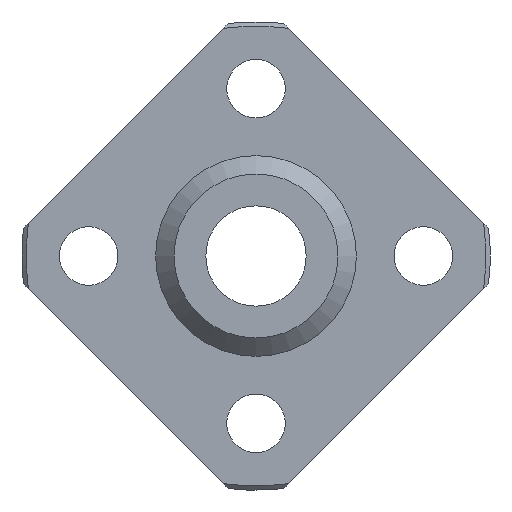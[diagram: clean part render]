
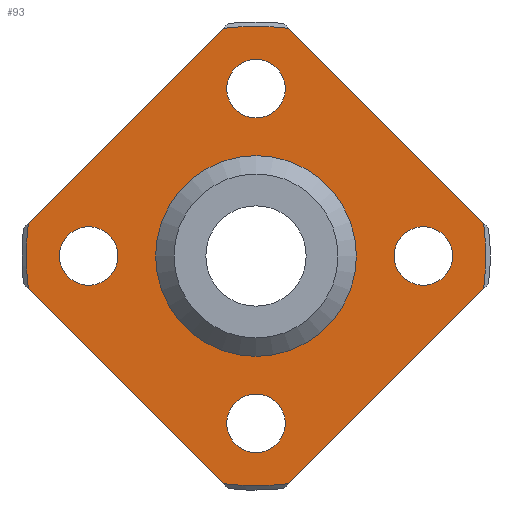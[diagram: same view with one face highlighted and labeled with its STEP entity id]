
A CAD part, left-side view. The second image highlights one B-rep face of the part: STEP entity #93.
In plain terms, the highlighted planar face has unit normal (-1, 0, 0).
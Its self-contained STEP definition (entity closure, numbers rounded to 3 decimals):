
#93=ADVANCED_FACE('',(#154,#155,#156,#157,#158,#159),#160,.F.);
#154=FACE_BOUND('',#248,.T.);
#155=FACE_BOUND('',#249,.T.);
#156=FACE_BOUND('',#250,.T.);
#157=FACE_BOUND('',#251,.T.);
#158=FACE_OUTER_BOUND('',#252,.T.);
#159=FACE_BOUND('',#253,.T.);
#160=PLANE('',#254);
#248=EDGE_LOOP('',(#435));
#249=EDGE_LOOP('',(#436));
#250=EDGE_LOOP('',(#437));
#251=EDGE_LOOP('',(#438));
#252=EDGE_LOOP('',(#439,#440,#441,#442,#443,#444,#445,#446));
#253=EDGE_LOOP('',(#447));
#254=AXIS2_PLACEMENT_3D('',#448,#449,#450);
#435=ORIENTED_EDGE('',*,*,#593,.T.);
#436=ORIENTED_EDGE('',*,*,#594,.T.);
#437=ORIENTED_EDGE('',*,*,#595,.T.);
#438=ORIENTED_EDGE('',*,*,#596,.T.);
#439=ORIENTED_EDGE('',*,*,#568,.F.);
#440=ORIENTED_EDGE('',*,*,#597,.T.);
#441=ORIENTED_EDGE('',*,*,#569,.F.);
#442=ORIENTED_EDGE('',*,*,#551,.T.);
#443=ORIENTED_EDGE('',*,*,#571,.F.);
#444=ORIENTED_EDGE('',*,*,#598,.T.);
#445=ORIENTED_EDGE('',*,*,#546,.F.);
#446=ORIENTED_EDGE('',*,*,#540,.T.);
#447=ORIENTED_EDGE('',*,*,#592,.T.);
#448=CARTESIAN_POINT('',(-8.0,6.0,0.0));
#449=DIRECTION('',(1.0,0.0,0.0));
#450=DIRECTION('',(0.0,0.0,-1.0));
#540=EDGE_CURVE('',#612,#610,#613,.T.);
#546=EDGE_CURVE('',#612,#623,#624,.T.);
#551=EDGE_CURVE('',#633,#631,#634,.T.);
#568=EDGE_CURVE('',#660,#610,#662,.T.);
#569=EDGE_CURVE('',#633,#663,#664,.T.);
#571=EDGE_CURVE('',#666,#631,#667,.T.);
#592=EDGE_CURVE('',#701,#701,#702,.T.);
#593=EDGE_CURVE('',#703,#703,#704,.T.);
#594=EDGE_CURVE('',#705,#705,#706,.T.);
#595=EDGE_CURVE('',#707,#707,#708,.T.);
#596=EDGE_CURVE('',#709,#709,#710,.T.);
#597=EDGE_CURVE('',#660,#663,#711,.T.);
#598=EDGE_CURVE('',#666,#623,#712,.T.);
#610=VERTEX_POINT('',#733);
#612=VERTEX_POINT('',#738);
#613=LINE('',#739,#740);
#623=VERTEX_POINT('',#761);
#624=CIRCLE('',#762,13.746);
#631=VERTEX_POINT('',#773);
#633=VERTEX_POINT('',#778);
#634=LINE('',#779,#780);
#660=VERTEX_POINT('',#823);
#662=CIRCLE('',#828,13.746);
#663=VERTEX_POINT('',#829);
#664=CIRCLE('',#830,13.746);
#666=VERTEX_POINT('',#835);
#667=CIRCLE('',#836,13.746);
#701=VERTEX_POINT('',#885);
#702=CIRCLE('',#886,6.0);
#703=VERTEX_POINT('',#887);
#704=CIRCLE('',#888,1.75);
#705=VERTEX_POINT('',#889);
#706=CIRCLE('',#890,1.75);
#707=VERTEX_POINT('',#891);
#708=CIRCLE('',#892,1.75);
#709=VERTEX_POINT('',#893);
#710=CIRCLE('',#894,1.75);
#711=LINE('',#895,#896);
#712=LINE('',#897,#898);
#733=CARTESIAN_POINT('',(-8.0,-1.949,13.607));
#738=CARTESIAN_POINT('',(-8.0,-13.607,1.949));
#739=CARTESIAN_POINT('',(-8.0,-4.778,10.778));
#740=VECTOR('',#916,1.0);
#761=CARTESIAN_POINT('',(-8.0,-13.607,-1.949));
#762=AXIS2_PLACEMENT_3D('',#919,#920,#921);
#773=CARTESIAN_POINT('',(-8.0,1.949,-13.607));
#778=CARTESIAN_POINT('',(-8.0,13.607,-1.949));
#779=CARTESIAN_POINT('',(-8.0,10.778,-4.778));
#780=VECTOR('',#926,1.0);
#823=CARTESIAN_POINT('',(-8.0,1.949,13.607));
#828=AXIS2_PLACEMENT_3D('',#950,#951,#952);
#829=CARTESIAN_POINT('',(-8.0,13.607,1.949));
#830=AXIS2_PLACEMENT_3D('',#953,#954,#955);
#835=CARTESIAN_POINT('',(-8.0,-1.949,-13.607));
#836=AXIS2_PLACEMENT_3D('',#956,#957,#958);
#885=CARTESIAN_POINT('',(-8.0,0.0,-6.0));
#886=AXIS2_PLACEMENT_3D('',#1001,#1002,#1003);
#887=CARTESIAN_POINT('',(-8.0,0.0,8.25));
#888=AXIS2_PLACEMENT_3D('',#1004,#1005,#1006);
#889=CARTESIAN_POINT('',(-8.0,10.0,-1.75));
#890=AXIS2_PLACEMENT_3D('',#1007,#1008,#1009);
#891=CARTESIAN_POINT('',(-8.0,0.0,-11.75));
#892=AXIS2_PLACEMENT_3D('',#1010,#1011,#1012);
#893=CARTESIAN_POINT('',(-8.0,-10.0,-1.75));
#894=AXIS2_PLACEMENT_3D('',#1013,#1014,#1015);
#895=CARTESIAN_POINT('',(-8.0,10.778,4.778));
#896=VECTOR('',#1016,1.0);
#897=CARTESIAN_POINT('',(-8.0,-4.778,-10.778));
#898=VECTOR('',#1017,1.0);
#916=DIRECTION('',(0.0,0.707,0.707));
#919=CARTESIAN_POINT('',(-8.0,0.0,0.0));
#920=DIRECTION('',(1.0,0.0,0.0));
#921=DIRECTION('',(0.0,0.0,-1.0));
#926=DIRECTION('',(0.0,-0.707,-0.707));
#950=CARTESIAN_POINT('',(-8.0,0.0,0.0));
#951=DIRECTION('',(1.0,0.0,0.0));
#952=DIRECTION('',(0.0,0.0,-1.0));
#953=CARTESIAN_POINT('',(-8.0,0.0,0.0));
#954=DIRECTION('',(1.0,0.0,0.0));
#955=DIRECTION('',(0.0,0.0,-1.0));
#956=CARTESIAN_POINT('',(-8.0,0.0,0.0));
#957=DIRECTION('',(1.0,0.0,0.0));
#958=DIRECTION('',(0.0,0.0,-1.0));
#1001=CARTESIAN_POINT('',(-8.0,0.0,0.0));
#1002=DIRECTION('',(1.0,0.0,0.0));
#1003=DIRECTION('',(0.0,0.0,-1.0));
#1004=CARTESIAN_POINT('',(-8.0,0.0,10.0));
#1005=DIRECTION('',(1.0,0.0,0.0));
#1006=DIRECTION('',(0.0,0.0,-1.0));
#1007=CARTESIAN_POINT('',(-8.0,10.0,0.));
#1008=DIRECTION('',(1.0,0.0,0.0));
#1009=DIRECTION('',(0.0,0.0,-1.0));
#1010=CARTESIAN_POINT('',(-8.0,0.0,-10.0));
#1011=DIRECTION('',(1.0,0.0,0.0));
#1012=DIRECTION('',(0.0,0.0,-1.0));
#1013=CARTESIAN_POINT('',(-8.0,-10.0,0.0));
#1014=DIRECTION('',(1.0,0.0,0.0));
#1015=DIRECTION('',(0.0,0.0,-1.0));
#1016=DIRECTION('',(0.0,0.707,-0.707));
#1017=DIRECTION('',(0.0,-0.707,0.707));
